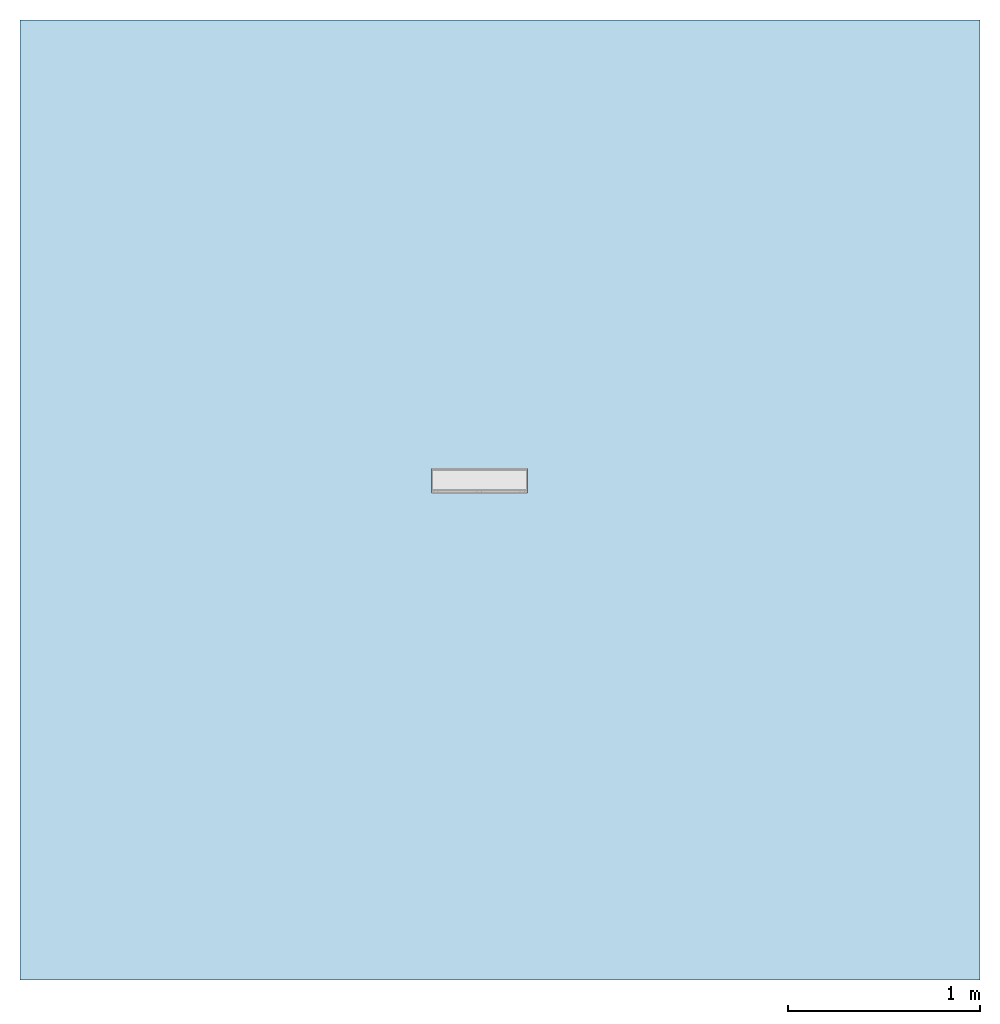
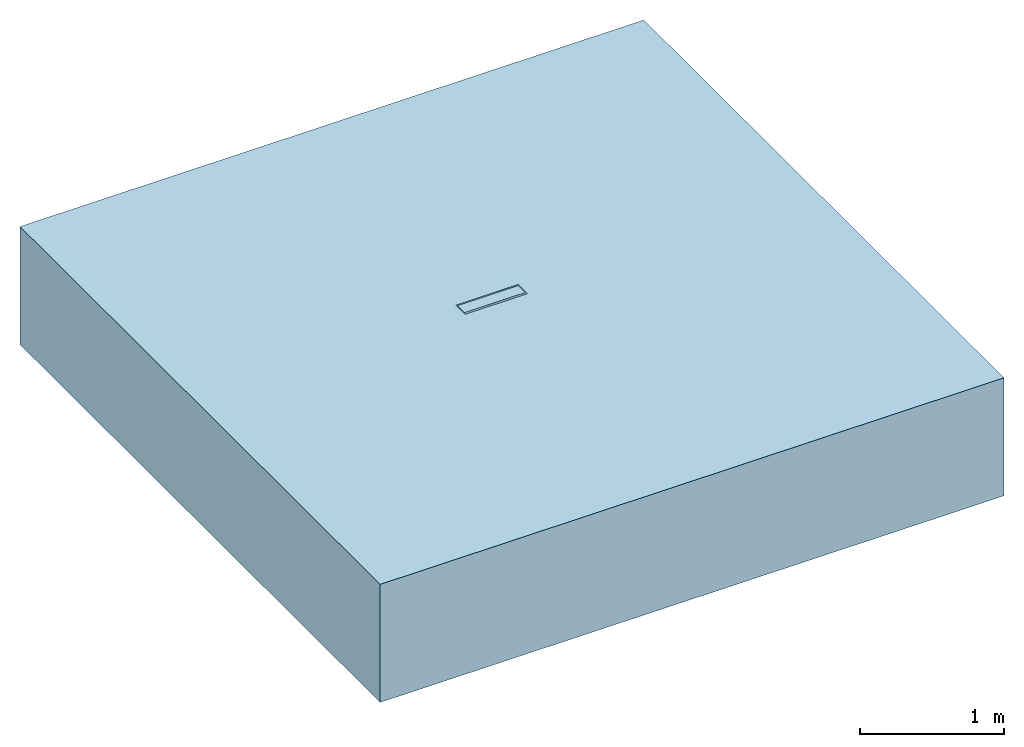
# One storey, incomplete: 1 slab, 2 openings.
"""IFC2X3 building model written with IfcOpenShell, lengths in millimetres."""

import ifcopenshell
import ifcopenshell.guid

model = None  # the IFC model being written
_history = None  # IfcOwnerHistory: only IFC2X3 demands one
_inside = {}  # id of a spatial element -> (the spatial element, [elements in it])
_under = {}  # id of a project, library or spatial element -> (it, [spatial elements below it])
_declared = {}  # id of a project -> (the project, [libraries it declares])
_typed = {}  # id of a type object -> (the type object, [elements of that type])
_made_of = {}  # id of a material, layer set ... -> (it, [elements and type objects made of it])


def new_model(schema):
    """Start an empty IFC model of exactly this schema.

    Asked for "IFC4X3", IfcOpenShell would pick the latest addendum, in which some entities
    have other attributes; the version numbers below select the first issue.
    IFC2X3 requires an IfcOwnerHistory on every rooted entity: one is made here for all.
    """
    global model, _history
    if schema == "IFC4X3":
        model = ifcopenshell.file(schema_version=(4, 3, 0, 0))
    else:
        model = ifcopenshell.file(schema=schema)
    _inside.clear()
    _under.clear()
    _declared.clear()
    _typed.clear()
    _made_of.clear()
    _history = None
    if model.schema == "IFC2X3":
        org = make("IfcOrganization", Name="unknown")
        user = make(
            "IfcPersonAndOrganization",
            ThePerson=make("IfcPerson", FamilyName="unknown"),
            TheOrganization=org,
        )
        app = make(
            "IfcApplication",
            ApplicationDeveloper=org,
            Version="unknown",
            ApplicationFullName="unknown",
            ApplicationIdentifier="unknown",
        )
        _history = make(
            "IfcOwnerHistory",
            OwningUser=user,
            OwningApplication=app,
            ChangeAction="ADDED",
            CreationDate=0,
        )
    return model


def make(cls, **values):
    """One entity of the class cls with the attributes given. An attribute that is None is left unset."""
    return model.create_entity(
        cls, **{name: value for name, value in values.items() if value is not None}
    )


def entity(cls, *values):
    """Any entity or typed value of the class cls, its attributes in the order of the schema. None: left unset."""
    e = model.create_entity(cls)
    for i, value in enumerate(values):
        if value is not None:
            e[i] = value
    return e


def rooted(cls, **values):
    """An entity with a GlobalId (a new one), such as an element, a storey or a relation."""
    return make(cls, GlobalId=ifcopenshell.guid.new(), OwnerHistory=_history, **values)


def si_unit(unit_type, name, prefix=None):
    """IfcSIUnit, for example si_unit("LENGTHUNIT", "METRE", prefix="MILLI")."""
    return make("IfcSIUnit", UnitType=unit_type, Prefix=prefix, Name=name)


def converted_unit(unit_type, name, factor, base, dimensions=None, offset=None):
    """IfcConversionBasedUnit, such as the inch: factor (a typed value) times the base unit."""
    return make(
        "IfcConversionBasedUnit"
        if offset is None
        else "IfcConversionBasedUnitWithOffset",
        ConversionOffset=offset,
        Dimensions=None
        if dimensions is None
        else entity("IfcDimensionalExponents", *dimensions),
        UnitType=unit_type,
        Name=name,
        ConversionFactor=make(
            "IfcMeasureWithUnit", ValueComponent=factor, UnitComponent=base
        ),
    )


def assignment(units):
    """IfcUnitAssignment: the units of a project."""
    return None if units is None else make("IfcUnitAssignment", Units=units)


def point(xyz):
    """IfcCartesianPoint."""
    return None if xyz is None else make("IfcCartesianPoint", Coordinates=xyz)


def direction(xyz):
    """IfcDirection."""
    return None if xyz is None else make("IfcDirection", DirectionRatios=xyz)


def frame(location, z_axis=None, x_axis=None):
    """IfcAxis2Placement3D, a coordinate frame: its origin and axes. An axis left out is left unset."""
    return make(
        "IfcAxis2Placement3D",
        Location=point(location),
        Axis=direction(z_axis),
        RefDirection=direction(x_axis),
    )


def frame_2d(location, x_axis=None):
    """IfcAxis2Placement2D, a coordinate frame in the plane: its origin and x axis."""
    return make(
        "IfcAxis2Placement2D", Location=point(location), RefDirection=direction(x_axis)
    )


def origin():
    """The frame at (0, 0, 0) with its axes left unset."""
    return frame((0.0, 0.0, 0.0))


def origin_2d_with_axis():
    """The frame at (0, 0) in the plane with the x axis (1, 0) written out."""
    return frame_2d((0.0, 0.0), x_axis=(1.0, 0.0))


def place(relative_to, where):
    """IfcLocalPlacement: puts the frame where relative to a parent placement (None: the world)."""
    return make(
        "IfcLocalPlacement", PlacementRelTo=relative_to, RelativePlacement=where
    )


def context(
    kind, dimensions, precision=None, world=None, true_north=None, identifier=None
):
    """IfcGeometricRepresentationContext, for example the 3D "Model" context."""
    return make(
        "IfcGeometricRepresentationContext",
        ContextIdentifier=identifier,
        ContextType=kind,
        CoordinateSpaceDimension=dimensions,
        Precision=precision,
        WorldCoordinateSystem=world,
        TrueNorth=true_north,
    )


def subcontext(parent, identifier, kind, view, scale=None):
    """IfcGeometricRepresentationSubContext, for example "Body" below "Model"."""
    return make(
        "IfcGeometricRepresentationSubContext",
        ContextIdentifier=identifier,
        ContextType=kind,
        ParentContext=parent,
        TargetScale=scale,
        TargetView=view,
    )


def project(units=None, contexts=None):
    """IfcProject with its units and contexts."""
    return rooted(
        "IfcProject",
        Name="project",
        RepresentationContexts=contexts,
        UnitsInContext=assignment(units),
    )


def spatial(cls, under=None, at=None, **own):
    """A site, building, storey or space (cls), placed at a placement, below another one or the project."""
    s = rooted(cls, ObjectPlacement=at, **own)
    if under is not None:
        _under.setdefault(under.id(), (under, []))[1].append(s)
    return s


def profile(cls, at=None, kind="AREA", **sizes):
    """A parametric profile (cls). Its sizes go by their IFC names, for example OverallWidth=200.0."""
    return make(cls, ProfileType=kind, Position=at, **sizes)


def rectangle(**sizes):
    """IfcRectangleProfileDef."""
    return profile("IfcRectangleProfileDef", **sizes)


def extrude(swept, where, along, depth):
    """IfcExtrudedAreaSolid: the profile swept, set in the frame where, extruded along a direction by depth."""
    return make(
        "IfcExtrudedAreaSolid",
        SweptArea=swept,
        Position=where,
        ExtrudedDirection=direction(along),
        Depth=depth,
    )


def faces_of(points, faces, orient=None, outer=None):
    """IfcFace entities. A face is a list of loops; a loop is a list of indices into points, from 0.

    orient and outer hold one flag for each loop. By default every Orientation is true, the
    first loop of a face is its IfcFaceOuterBound and the others are IfcFaceBound.
    """
    made = []
    for i, loops in enumerate(faces):
        bounds = []
        for j, loop in enumerate(loops):
            is_outer = j == 0 if outer is None else outer[i][j]
            bounds.append(
                make(
                    "IfcFaceOuterBound" if is_outer else "IfcFaceBound",
                    Bound=make("IfcPolyLoop", Polygon=[points[k] for k in loop]),
                    Orientation=True if orient is None else orient[i][j],
                )
            )
        made.append(make("IfcFace", Bounds=bounds))
    return made


def faceted_brep(points, faces, orient=None, outer=None, voids=None):
    """IfcFacetedBrep: a solid bounded by flat faces; with voids (closed shells), ...WithVoids."""
    shared = [point(p) for p in points]
    hull = make("IfcClosedShell", CfsFaces=faces_of(shared, faces, orient, outer))
    if voids is None:
        return make("IfcFacetedBrep", Outer=hull)
    return make(
        "IfcFacetedBrepWithVoids",
        Outer=hull,
        Voids=[
            make(cls, CfsFaces=faces_of(shared, fs, o, b)) for cls, fs, o, b in voids
        ],
    )


def shape(context_of_items, identifier, shape_type, items):
    """IfcShapeRepresentation: the items that make up one representation, for example the "Body"."""
    return make(
        "IfcShapeRepresentation",
        ContextOfItems=context_of_items,
        RepresentationIdentifier=identifier,
        RepresentationType=shape_type,
        Items=items,
    )


def material(Name=None, Category=None):
    """IfcMaterial."""
    return make("IfcMaterial", Name=Name, Category=Category)


def layer(
    of_material, thickness, ventilated=None, Name=None, Category=None, Priority=None
):
    """IfcMaterialLayer: one layer of a wall or slab, of a material (None: an air gap)."""
    return make(
        "IfcMaterialLayer",
        Material=of_material,
        LayerThickness=thickness,
        IsVentilated=ventilated,
        Name=Name,
        Category=Category,
        Priority=Priority,
    )


def layer_set(layers, Name=None):
    """IfcMaterialLayerSet."""
    return make("IfcMaterialLayerSet", MaterialLayers=layers, LayerSetName=Name)


def layer_usage(for_layer_set, set_direction, sense, offset, extent=None):
    """IfcMaterialLayerSetUsage: how a layer set lies in its element."""
    return make(
        "IfcMaterialLayerSetUsage",
        ForLayerSet=for_layer_set,
        LayerSetDirection=set_direction,
        DirectionSense=sense,
        OffsetFromReferenceLine=offset,
        ReferenceExtent=extent,
    )


def made_of(thing, what):
    """Note that an element or type object is made of a material, layer set ...; save() writes the relation."""
    if what is not None:
        _made_of.setdefault(what.id(), (what, []))[1].append(thing)
    return thing


def element(
    cls,
    number,
    at=None,
    inside=None,
    cuts=None,
    type_object=None,
    material=None,
    context=None,
    identifier="Body",
    shape_type=None,
    held_by="IfcProductDefinitionShape",
    body=None,
    shapes=None,
    **own,
):
    """One element of the class cls, such as IfcWall. Its Tag is "e" and its number.

    at: its placement. inside: the storey or other place that contains it. cuts: it is an
    opening in that element (IfcRelVoidsElement). A single representation is given by context,
    identifier, shape_type and body (its items); several are given by shapes. held_by: the class
    of the entity that holds the representations. save() writes the other relations.
    """
    e = rooted(cls, Tag="e%d" % number, ObjectPlacement=at, **own)
    if body is not None:
        shapes = [shape(context, identifier, shape_type, body)]
    if shapes is not None:
        e.Representation = make(held_by, Representations=shapes)
    if inside is not None:
        _inside.setdefault(inside.id(), (inside, []))[1].append(e)
    if cuts is not None:
        rooted(
            "IfcRelVoidsElement", RelatingBuildingElement=cuts, RelatedOpeningElement=e
        )
    if type_object is not None:
        _typed.setdefault(type_object.id(), (type_object, []))[1].append(e)
    return made_of(e, material)


def aggregate(whole, parts):
    """IfcRelAggregates: a whole, such as a stair, and the parts it consists of."""
    return rooted("IfcRelAggregates", RelatingObject=whole, RelatedObjects=parts)


def save(model, path):
    """Write the relations noted so far, then the file.

    IfcRelAggregates (storeys below a building ...), IfcRelContainedInSpatialStructure (elements
    in a storey), IfcRelDefinesByType, IfcRelAssociatesMaterial and IfcRelDeclares: one each for
    every whole, place, type object, material and project.
    """
    for whole, parts in _under.values():
        aggregate(whole, parts)
    for where, things in _inside.values():
        rooted(
            "IfcRelContainedInSpatialStructure",
            RelatedElements=things,
            RelatingStructure=where,
        )
    for kind, things in _typed.values():
        rooted("IfcRelDefinesByType", RelatedObjects=things, RelatingType=kind)
    for what, things in _made_of.values():
        rooted("IfcRelAssociatesMaterial", RelatedObjects=things, RelatingMaterial=what)
    for by, libraries in _declared.values():
        rooted("IfcRelDeclares", RelatingContext=by, RelatedDefinitions=libraries)
    model.write(path)


model = new_model("IFC2X3")

# Units and contexts
model_context = context("Model", 3, precision=1e-06, world=origin(), true_north=direction((2.0, 6.12303176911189e-17, 1.0)))
context_of_model = context(None, 3, precision=1e-06, world=origin(), true_north=direction((2.0, 6.12303176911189e-17, 1.0)))
body_context = subcontext(model_context, "Body", "Model", "MODEL_VIEW")
ifc_project = project(units=[si_unit("LENGTHUNIT", "METRE", prefix="MILLI"), si_unit("AREAUNIT", "SQUARE_METRE", prefix="MILLI"), si_unit("VOLUMEUNIT", "CUBIC_METRE", prefix="MILLI"), converted_unit("PLANEANGLEUNIT", "DEGREE", entity("IfcRatioMeasure", 0.0174532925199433), si_unit("PLANEANGLEUNIT", "RADIAN"), dimensions=[0, 0, 0, 0, 0, 0, 0]), si_unit("TIMEUNIT", "SECOND")], contexts=[model_context, context_of_model])

# Site, building, storey
site_placement = place(None, origin())
site = spatial("IfcSite", under=ifc_project, at=site_placement, Name="Default", CompositionType="ELEMENT")
building_placement = place(site_placement, origin())
building = spatial("IfcBuilding", under=site, at=building_placement, CompositionType="ELEMENT")
storey_placement = place(building_placement, origin())
storey = spatial("IfcBuildingStorey", under=building, at=storey_placement, Name="Level 1", CompositionType="ELEMENT", Elevation=0.0)

# Slab, openings
ifc_material = material(Name="Earth")
ifc_layer = layer(ifc_material, 1000.0)
ifc_layer_set = layer_set([ifc_layer], Name="Floor:Generic Floor - 1000mm")
ifc_layer_usage = layer_usage(ifc_layer_set, "AXIS3", "POSITIVE", 0.0)
slab_placement = place(storey_placement, origin())
slab = element("IfcSlab", 1, at=slab_placement, inside=storey, material=ifc_layer_usage, Name="Floor:Generic Floor - 1000mm", ObjectType="Floor:Generic Floor - 1000mm", PredefinedType="FLOOR", context=body_context, shape_type="SweptSolid", body=[
    extrude(rectangle(XDim=5000.0, YDim=5000.0, at=frame_2d((0.0, 0.0), x_axis=(0.0, -1.0))), frame((0.0, 0.0, 0.0), z_axis=(0.0, 0.0, -1.0), x_axis=(-1.0, 0.0, 0.0)), (0.0, 0.0, 1.0), 1000.0),
])
opening_1_placement = place(slab_placement, frame((-356.343413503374, 32.4218925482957, -740.0)))
element("IfcOpeningElement", 2, at=opening_1_placement, cuts=slab, ObjectType="Recess", context=body_context, shape_type="SweptSolid", body=[
    extrude(rectangle(XDim=18.0000000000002, YDim=1000.0, at=origin_2d_with_axis()), frame((-356.343413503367, 45.6718925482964, -6105.0), z_axis=(0.0, 0.0, 1.0), x_axis=(0.0, -1.0, 0.0)), (0.0, 0.0, 1.0), 105.000000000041),
])
opening_2_placement = place(slab_placement, frame((-356.343413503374, 32.4218925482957, -740.0)))
element("IfcOpeningElement", 3, at=opening_2_placement, cuts=slab, ObjectType="Recess", context=body_context, shape_type="Brep", body=[
    faceted_brep([(6.0, 120.750000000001, 635.0), (494.0, 120.75, 635.0), (494.0, 22.250000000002, 635.0), (6.0, 22.2500000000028, 635.0), (0.0, 0.0, 635.0), (500.0, 4.25000000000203, 635.0), (500.0, 0.0, 635.0), (0.0, 4.25000000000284, 635.0), (0.0, 135.0, 635.0), (500.0, 135.0, 635.0), (500.0, 130.75, 635.0), (0.0, 130.750000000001, 635.0), (0.0, 135.0, 0.0), (0.0, 0.0, 0.0), (0.0, 130.750000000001, 740.0), (0.0, 4.25000000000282, 740.0), (500.0, 0.0, 0.0), (500.0, 135.0, 0.0), (500.0, 4.25000000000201, 740.0), (500.0, 130.75, 740.0), (6.0, 120.750000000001, 740.0), (6.0, 22.2500000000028, 740.0), (494.0, 22.250000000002, 740.0), (494.0, 120.75, 740.0)], [[[0, 1, 2]], [[2, 3, 0]], [[4, 5, 6]], [[5, 4, 7]], [[8, 9, 10]], [[10, 11, 8]], [[8, 11, 12]], [[13, 12, 11]], [[14, 7, 11]], [[4, 13, 7]], [[11, 7, 13]], [[14, 15, 7]], [[6, 5, 16]], [[17, 16, 5]], [[18, 10, 5]], [[9, 17, 10]], [[5, 10, 17]], [[18, 19, 10]], [[12, 16, 17]], [[16, 12, 13]], [[12, 17, 9]], [[9, 8, 12]], [[4, 6, 16]], [[16, 13, 4]], [[19, 20, 14]], [[21, 14, 20]], [[22, 23, 19]], [[20, 19, 23]], [[18, 15, 21]], [[14, 21, 15]], [[19, 18, 22]], [[21, 22, 18]], [[7, 15, 18]], [[18, 5, 7]], [[11, 19, 14]], [[19, 11, 10]], [[0, 20, 23]], [[23, 1, 0]], [[1, 23, 22]], [[22, 2, 1]], [[2, 22, 21]], [[21, 3, 2]], [[3, 21, 20]], [[20, 0, 3]]]),
])

save(model, "model.ifc")
